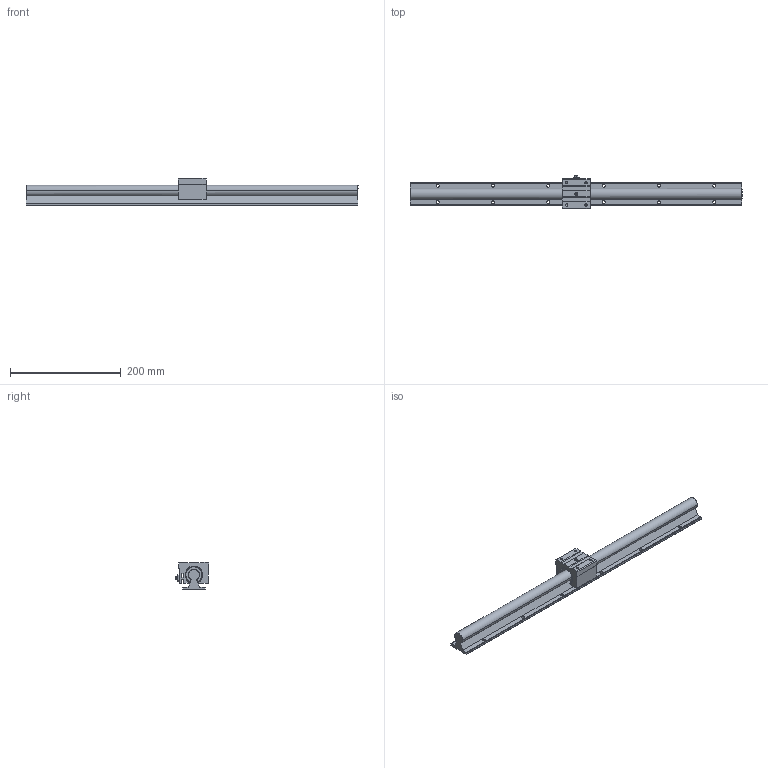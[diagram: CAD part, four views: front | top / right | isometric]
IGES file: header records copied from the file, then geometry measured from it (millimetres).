
Global section: file name: No Iges File Name specified; native system: AutoDesk Inventor R10; preprocessor: AutoDesk Inventor Iges Exporter R10; author: No Author specified; organization: No Organization specified; date: 20101221.093750; units: millimetre
Bounding box: 600 x 61 x 50 mm (x, y, z)
Surface area: 112337.8 mm2 (no closed solid volume)
Topology: 0 solids, 0 shells, 280 faces, 1802 edges, 1778 vertices
Faces by surface type: bspline 280
